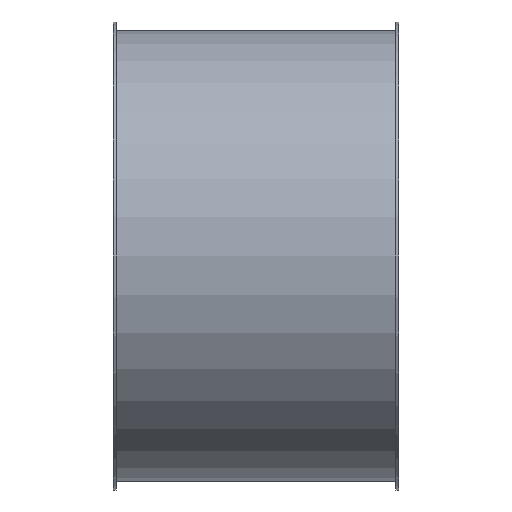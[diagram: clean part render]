
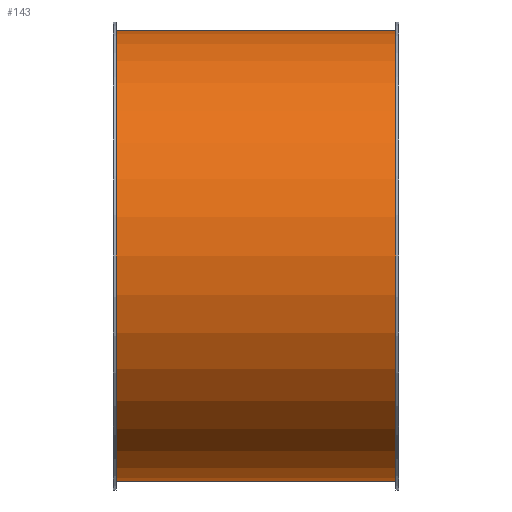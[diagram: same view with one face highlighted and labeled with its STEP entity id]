
A CAD part, front view. The second image highlights one B-rep face of the part: STEP entity #143.
In plain terms, the highlighted cylindrical face has radius 158 mm (diameter 316 mm), a full revolution.
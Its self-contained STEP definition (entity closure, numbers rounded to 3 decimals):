
#112=CARTESIAN_POINT('',(166.119,2.817,0.0));
#113=VERTEX_POINT('',#112);
#114=CARTESIAN_POINT('',(166.119,160.817,0.0));
#115=DIRECTION('',(-1.0,0.0,0.0));
#116=DIRECTION('',(0.0,-1.0,0.0));
#117=AXIS2_PLACEMENT_3D('',#114,#115,#116);
#118=CIRCLE('',#117,158.);
#119=EDGE_CURVE('',#113,#113,#118,.T.);
#124=CARTESIAN_POINT('',(68.119,160.817,0.0));
#125=DIRECTION('',(-1.0,0.0,0.0));
#126=DIRECTION('',(0.0,-1.0,0.0));
#127=AXIS2_PLACEMENT_3D('',#124,#125,#126);
#128=CYLINDRICAL_SURFACE('',#127,158.);
#129=CARTESIAN_POINT('',(-29.881,2.817,0.0));
#130=VERTEX_POINT('',#129);
#131=CARTESIAN_POINT('',(-29.881,160.817,0.0));
#132=DIRECTION('',(-1.0,0.0,0.0));
#133=DIRECTION('',(0.0,-1.0,0.0));
#134=AXIS2_PLACEMENT_3D('',#131,#132,#133);
#135=CIRCLE('',#134,158.);
#136=EDGE_CURVE('',#130,#130,#135,.T.);
#137=ORIENTED_EDGE('',*,*,#136,.F.);
#138=EDGE_LOOP('',(#137));
#139=FACE_OUTER_BOUND('',#138,.T.);
#140=ORIENTED_EDGE('',*,*,#119,.T.);
#141=EDGE_LOOP('',(#140));
#142=FACE_BOUND('',#141,.T.);
#143=ADVANCED_FACE('',(#139,#142),#128,.T.);
